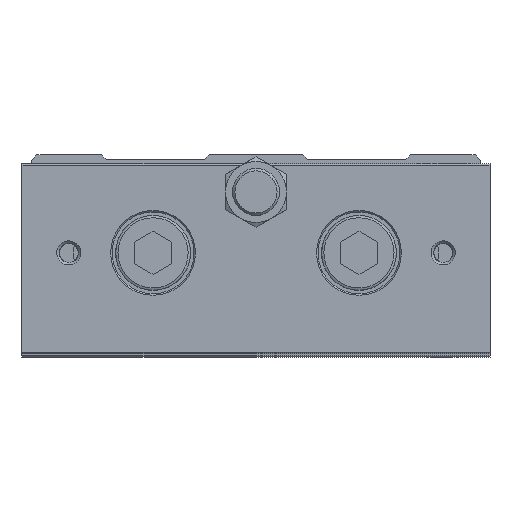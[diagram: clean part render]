
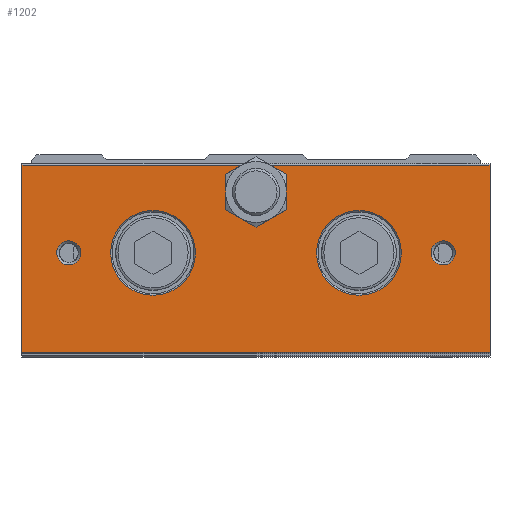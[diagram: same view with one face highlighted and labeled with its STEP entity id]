
A CAD part, top view. The second image highlights one B-rep face of the part: STEP entity #1202.
In plain terms, the highlighted planar face has unit normal (0, 0, 1).
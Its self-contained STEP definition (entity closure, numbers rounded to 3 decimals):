
#1044=CARTESIAN_POINT('',(42.567,-0.75,262.5));
#1045=VERTEX_POINT('',#1044);
#1046=CARTESIAN_POINT('',(40.0,-0.75,262.5));
#1047=DIRECTION('',(0.0,0.0,1.0));
#1048=DIRECTION('',(-1.0,0.0,0.0));
#1049=AXIS2_PLACEMENT_3D('',#1046,#1047,#1048);
#1050=CIRCLE('',#1049,2.567);
#1051=EDGE_CURVE('',#1045,#1045,#1050,.T.);
#1056=CARTESIAN_POINT('',(0.0,-22.25,262.5));
#1057=DIRECTION('',(0.0,0.0,1.0));
#1058=DIRECTION('',(1.0,0.0,0.0));
#1059=AXIS2_PLACEMENT_3D('',#1056,#1057,#1058);
#1060=PLANE('',#1059);
#1061=CARTESIAN_POINT('',(50.0,-21.95,262.5));
#1062=VERTEX_POINT('',#1061);
#1063=CARTESIAN_POINT('',(-50.0,-21.95,262.5));
#1064=VERTEX_POINT('',#1063);
#1065=CARTESIAN_POINT('',(50.0,-21.95,262.5));
#1066=DIRECTION('',(-1.0,0.0,0.0));
#1067=VECTOR('',#1066,100.0);
#1068=LINE('',#1065,#1067);
#1069=EDGE_CURVE('',#1062,#1064,#1068,.T.);
#1070=ORIENTED_EDGE('',*,*,#1069,.F.);
#1071=CARTESIAN_POINT('',(50.0,17.95,262.5));
#1072=VERTEX_POINT('',#1071);
#1073=CARTESIAN_POINT('',(50.0,-21.95,262.5));
#1074=DIRECTION('',(0.0,1.0,0.0));
#1075=VECTOR('',#1074,39.9);
#1076=LINE('',#1073,#1075);
#1077=EDGE_CURVE('',#1062,#1072,#1076,.T.);
#1078=ORIENTED_EDGE('',*,*,#1077,.T.);
#1079=CARTESIAN_POINT('',(3.124,17.95,262.5));
#1080=VERTEX_POINT('',#1079);
#1081=CARTESIAN_POINT('',(3.124,17.95,262.5));
#1082=DIRECTION('',(1.0,0.0,0.0));
#1083=VECTOR('',#1082,46.876);
#1084=LINE('',#1081,#1083);
#1085=EDGE_CURVE('',#1080,#1072,#1084,.T.);
#1086=ORIENTED_EDGE('',*,*,#1085,.F.);
#1087=CARTESIAN_POINT('',(3.25,17.879,262.5));
#1088=VERTEX_POINT('',#1087);
#1089=CARTESIAN_POINT('',(0.0,12.25,262.5));
#1090=DIRECTION('',(0.0,0.0,1.0));
#1091=DIRECTION('',(0.0,1.0,0.0));
#1092=AXIS2_PLACEMENT_3D('',#1089,#1090,#1091);
#1093=CIRCLE('',#1092,6.5);
#1094=EDGE_CURVE('',#1088,#1080,#1093,.T.);
#1095=ORIENTED_EDGE('',*,*,#1094,.F.);
#1096=CARTESIAN_POINT('',(6.5,12.25,262.5));
#1097=VERTEX_POINT('',#1096);
#1098=CARTESIAN_POINT('',(0.0,12.25,262.5));
#1099=DIRECTION('',(0.0,0.0,1.0));
#1100=DIRECTION('',(0.0,1.0,0.0));
#1101=AXIS2_PLACEMENT_3D('',#1098,#1099,#1100);
#1102=CIRCLE('',#1101,6.5);
#1103=EDGE_CURVE('',#1097,#1088,#1102,.T.);
#1104=ORIENTED_EDGE('',*,*,#1103,.F.);
#1105=CARTESIAN_POINT('',(3.25,6.621,262.5));
#1106=VERTEX_POINT('',#1105);
#1107=CARTESIAN_POINT('',(0.0,12.25,262.5));
#1108=DIRECTION('',(0.0,0.0,1.0));
#1109=DIRECTION('',(0.0,1.0,0.0));
#1110=AXIS2_PLACEMENT_3D('',#1107,#1108,#1109);
#1111=CIRCLE('',#1110,6.5);
#1112=EDGE_CURVE('',#1106,#1097,#1111,.T.);
#1113=ORIENTED_EDGE('',*,*,#1112,.F.);
#1114=CARTESIAN_POINT('',(-3.25,6.621,262.5));
#1115=VERTEX_POINT('',#1114);
#1116=CARTESIAN_POINT('',(0.0,12.25,262.5));
#1117=DIRECTION('',(0.0,0.0,1.0));
#1118=DIRECTION('',(0.0,1.0,0.0));
#1119=AXIS2_PLACEMENT_3D('',#1116,#1117,#1118);
#1120=CIRCLE('',#1119,6.5);
#1121=EDGE_CURVE('',#1115,#1106,#1120,.T.);
#1122=ORIENTED_EDGE('',*,*,#1121,.F.);
#1123=CARTESIAN_POINT('',(-6.5,12.25,262.5));
#1124=VERTEX_POINT('',#1123);
#1125=CARTESIAN_POINT('',(0.0,12.25,262.5));
#1126=DIRECTION('',(0.0,0.0,1.0));
#1127=DIRECTION('',(0.0,1.0,0.0));
#1128=AXIS2_PLACEMENT_3D('',#1125,#1126,#1127);
#1129=CIRCLE('',#1128,6.5);
#1130=EDGE_CURVE('',#1124,#1115,#1129,.T.);
#1131=ORIENTED_EDGE('',*,*,#1130,.F.);
#1132=CARTESIAN_POINT('',(-3.25,17.879,262.5));
#1133=VERTEX_POINT('',#1132);
#1134=CARTESIAN_POINT('',(0.0,12.25,262.5));
#1135=DIRECTION('',(0.0,0.0,1.0));
#1136=DIRECTION('',(0.0,1.0,0.0));
#1137=AXIS2_PLACEMENT_3D('',#1134,#1135,#1136);
#1138=CIRCLE('',#1137,6.5);
#1139=EDGE_CURVE('',#1133,#1124,#1138,.T.);
#1140=ORIENTED_EDGE('',*,*,#1139,.F.);
#1141=CARTESIAN_POINT('',(-3.124,17.95,262.5));
#1142=VERTEX_POINT('',#1141);
#1143=CARTESIAN_POINT('',(0.0,12.25,262.5));
#1144=DIRECTION('',(0.0,0.0,1.0));
#1145=DIRECTION('',(0.0,1.0,0.0));
#1146=AXIS2_PLACEMENT_3D('',#1143,#1144,#1145);
#1147=CIRCLE('',#1146,6.5);
#1148=EDGE_CURVE('',#1142,#1133,#1147,.T.);
#1149=ORIENTED_EDGE('',*,*,#1148,.F.);
#1150=CARTESIAN_POINT('',(-50.0,17.95,262.5));
#1151=VERTEX_POINT('',#1150);
#1152=CARTESIAN_POINT('',(-50.0,17.95,262.5));
#1153=DIRECTION('',(1.0,0.0,0.0));
#1154=VECTOR('',#1153,46.876);
#1155=LINE('',#1152,#1154);
#1156=EDGE_CURVE('',#1151,#1142,#1155,.T.);
#1157=ORIENTED_EDGE('',*,*,#1156,.F.);
#1158=CARTESIAN_POINT('',(-50.0,17.95,262.5));
#1159=DIRECTION('',(0.0,-1.0,0.0));
#1160=VECTOR('',#1159,39.9);
#1161=LINE('',#1158,#1160);
#1162=EDGE_CURVE('',#1151,#1064,#1161,.T.);
#1163=ORIENTED_EDGE('',*,*,#1162,.T.);
#1164=EDGE_LOOP('',(#1070,#1078,#1086,#1095,#1104,#1113,#1122,#1131,#1140,#1149,#1157,#1163));
#1165=FACE_OUTER_BOUND('',#1164,.T.);
#1166=CARTESIAN_POINT('',(-37.433,-0.75,262.5));
#1167=VERTEX_POINT('',#1166);
#1168=CARTESIAN_POINT('',(-40.0,-0.75,262.5));
#1169=DIRECTION('',(0.0,0.0,1.0));
#1170=DIRECTION('',(-1.0,0.0,0.0));
#1171=AXIS2_PLACEMENT_3D('',#1168,#1169,#1170);
#1172=CIRCLE('',#1171,2.567);
#1173=EDGE_CURVE('',#1167,#1167,#1172,.T.);
#1174=ORIENTED_EDGE('',*,*,#1173,.F.);
#1175=EDGE_LOOP('',(#1174));
#1176=FACE_BOUND('',#1175,.T.);
#1177=CARTESIAN_POINT('',(-12.95,-0.75,262.5));
#1178=VERTEX_POINT('',#1177);
#1179=CARTESIAN_POINT('',(-22.0,-0.75,262.5));
#1180=DIRECTION('',(0.0,0.0,1.0));
#1181=DIRECTION('',(-1.0,0.0,0.0));
#1182=AXIS2_PLACEMENT_3D('',#1179,#1180,#1181);
#1183=CIRCLE('',#1182,9.05);
#1184=EDGE_CURVE('',#1178,#1178,#1183,.T.);
#1185=ORIENTED_EDGE('',*,*,#1184,.F.);
#1186=EDGE_LOOP('',(#1185));
#1187=FACE_BOUND('',#1186,.T.);
#1188=CARTESIAN_POINT('',(31.05,-0.75,262.5));
#1189=VERTEX_POINT('',#1188);
#1190=CARTESIAN_POINT('',(22.0,-0.75,262.5));
#1191=DIRECTION('',(0.0,0.0,1.0));
#1192=DIRECTION('',(-1.0,0.0,0.0));
#1193=AXIS2_PLACEMENT_3D('',#1190,#1191,#1192);
#1194=CIRCLE('',#1193,9.05);
#1195=EDGE_CURVE('',#1189,#1189,#1194,.T.);
#1196=ORIENTED_EDGE('',*,*,#1195,.F.);
#1197=EDGE_LOOP('',(#1196));
#1198=FACE_BOUND('',#1197,.T.);
#1199=ORIENTED_EDGE('',*,*,#1051,.F.);
#1200=EDGE_LOOP('',(#1199));
#1201=FACE_BOUND('',#1200,.T.);
#1202=ADVANCED_FACE('',(#1165,#1176,#1187,#1198,#1201),#1060,.T.);
